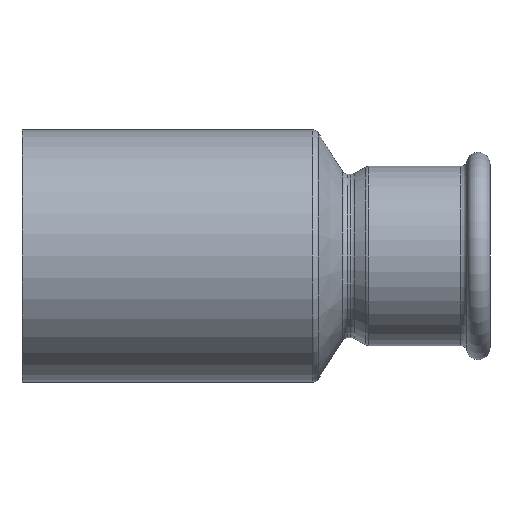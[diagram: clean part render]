
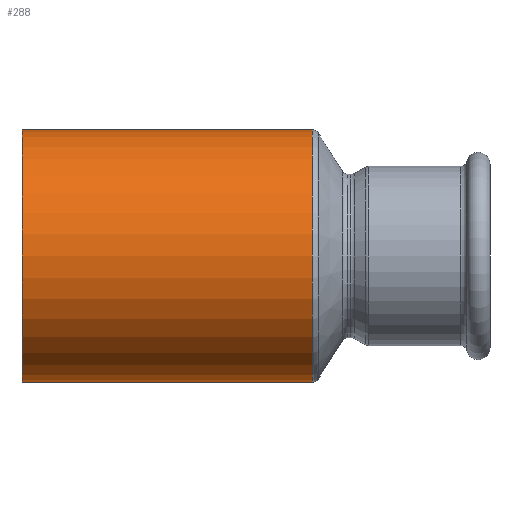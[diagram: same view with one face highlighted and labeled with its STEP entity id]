
A CAD part, front view. The second image highlights one B-rep face of the part: STEP entity #288.
In plain terms, the highlighted cylindrical face has radius 27 mm (diameter 54 mm), a partial arc.
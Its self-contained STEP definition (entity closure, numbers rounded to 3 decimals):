
#17 = CARTESIAN_POINT ( 'NONE',  ( 4.865, 0., 27. ) ) ;
#58 = VERTEX_POINT ( 'NONE', #17 ) ;
#59 = CARTESIAN_POINT ( 'NONE',  ( -57.135, 0., 0. ) ) ;
#90 = ORIENTED_EDGE ( 'NONE', *, *, #821, .T. ) ;
#95 = ORIENTED_EDGE ( 'NONE', *, *, #729, .F. ) ;
#113 = VERTEX_POINT ( 'NONE', #277 ) ;
#140 = EDGE_CURVE ( 'NONE', #58, #1069, #902, .T. ) ;
#188 = DIRECTION ( 'NONE',  ( 0., 0., 1. ) ) ;
#264 = CARTESIAN_POINT ( 'NONE',  ( 4.865, 0., -27. ) ) ;
#270 = DIRECTION ( 'NONE',  ( 0., 0., -1. ) ) ;
#271 = DIRECTION ( 'NONE',  ( -1., 0., 0. ) ) ;
#277 = CARTESIAN_POINT ( 'NONE',  ( -57.135, 0., -27. ) ) ;
#288 = ADVANCED_FACE ( 'NONE', ( #356 ), #691, .T. ) ;
#319 = CARTESIAN_POINT ( 'NONE',  ( -53.513, 0., 27. ) ) ;
#356 = FACE_OUTER_BOUND ( 'NONE', #1047, .T. ) ;
#368 = CIRCLE ( 'NONE', #834, 27. ) ;
#401 = DIRECTION ( 'NONE',  ( -1., 0., 0. ) ) ;
#437 = CARTESIAN_POINT ( 'NONE',  ( 4.865, 0., 0. ) ) ;
#482 = EDGE_CURVE ( 'NONE', #609, #113, #826, .T. ) ;
#497 = DIRECTION ( 'NONE',  ( -1., 0., 0. ) ) ;
#560 = AXIS2_PLACEMENT_3D ( 'NONE', #437, #698, #270 ) ;
#576 = CIRCLE ( 'NONE', #560, 27. ) ;
#609 = VERTEX_POINT ( 'NONE', #264 ) ;
#622 = VECTOR ( 'NONE', #401, 1000. ) ;
#654 = DIRECTION ( 'NONE',  ( 0., 0., 1. ) ) ;
#666 = DIRECTION ( 'NONE',  ( -1., 0., 0. ) ) ;
#691 = CYLINDRICAL_SURFACE ( 'NONE', #1040, 27. ) ;
#698 = DIRECTION ( 'NONE',  ( -1., 0., 0. ) ) ;
#729 = EDGE_CURVE ( 'NONE', #113, #1069, #368, .T. ) ;
#749 = CARTESIAN_POINT ( 'NONE',  ( -53.513, 0., -27. ) ) ;
#800 = VECTOR ( 'NONE', #666, 1000. ) ;
#821 = EDGE_CURVE ( 'NONE', #609, #58, #576, .T. ) ;
#826 = LINE ( 'NONE', #749, #800 ) ;
#834 = AXIS2_PLACEMENT_3D ( 'NONE', #59, #497, #654 ) ;
#878 = ORIENTED_EDGE ( 'NONE', *, *, #482, .F. ) ;
#902 = LINE ( 'NONE', #319, #622 ) ;
#903 = CARTESIAN_POINT ( 'NONE',  ( -57.135, 0., 27. ) ) ;
#1023 = CARTESIAN_POINT ( 'NONE',  ( -53.513, 0., 0. ) ) ;
#1032 = ORIENTED_EDGE ( 'NONE', *, *, #140, .T. ) ;
#1040 = AXIS2_PLACEMENT_3D ( 'NONE', #1023, #271, #188 ) ;
#1047 = EDGE_LOOP ( 'NONE', ( #878, #90, #1032, #95 ) ) ;
#1069 = VERTEX_POINT ( 'NONE', #903 ) ;
